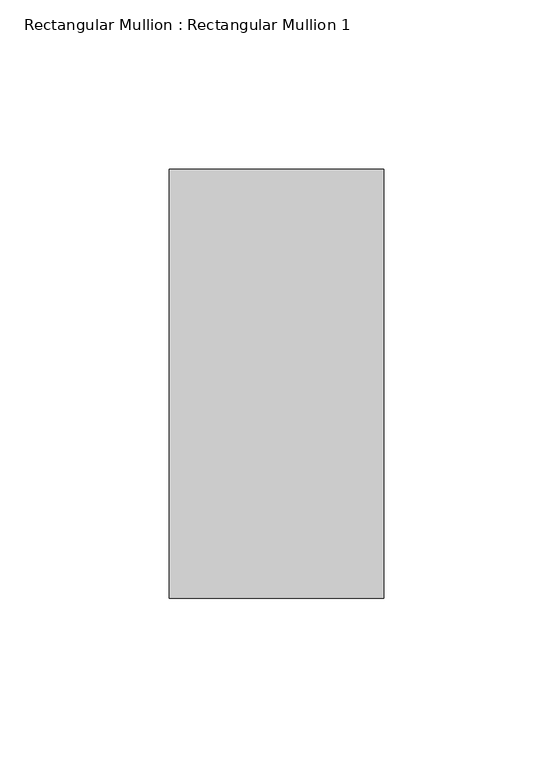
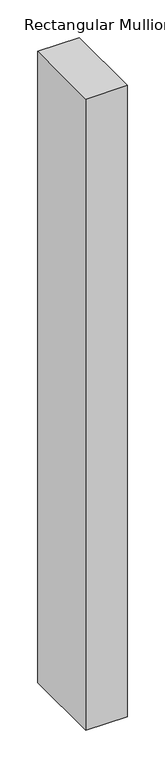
"""IFC4 building model written with IfcOpenShell, lengths in millimetres: member geometry, Rectangular Mullion : Rectangular Mullion 1."""

from ifc_helpers import new_model, si_unit, frame, origin, place, context, project, spatial, polyline, outline, extrude, source, transform, mapped, element, save


def rectangular_mullion_rectangular_mullion_1_5234fe7d(model_context):
    return source(origin(), model_context, "Body", "SweptSolid", [
        extrude(outline(polyline([(0.0, 63.5), (0.0, -63.5), (-63.5, -63.5), (-63.5, 63.5), (0.0, 63.5)])), frame((0.0, 0.0, -1020.5357142), z_axis=(0.0, 0.0, 1.0), x_axis=(1.0, 0.0, 0.0)), (0.0, 0.0, 1.0), 1020.5357142),
    ])


if __name__ == "__main__":
    model = new_model("IFC4")
    model_context = context("Model", 3, world=origin())
    ifc_project = project(units=[si_unit("LENGTHUNIT", "METRE", prefix="MILLI")], contexts=[model_context])
    site = spatial("IfcSite", under=ifc_project)
    building = spatial("IfcBuilding", under=site)
    placement = place(None, origin())
    rectangular_mullion_rectangular_mullion_1_shape = rectangular_mullion_rectangular_mullion_1_5234fe7d(model_context)
    element("IfcMember", 1, ObjectType="Rectangular Mullion : Rectangular Mullion 1", at=placement, inside=building, context=model_context, shape_type="MappedRepresentation", body=[
        mapped(rectangular_mullion_rectangular_mullion_1_shape, transform((0.0, 0.0, 0.0), x_axis=(1.0, 0.0, 0.0), y_axis=(0.0, 1.0, 0.0), z_axis=(0.0, 0.0, 1.0))),
    ])
    save(model, "model.ifc")
